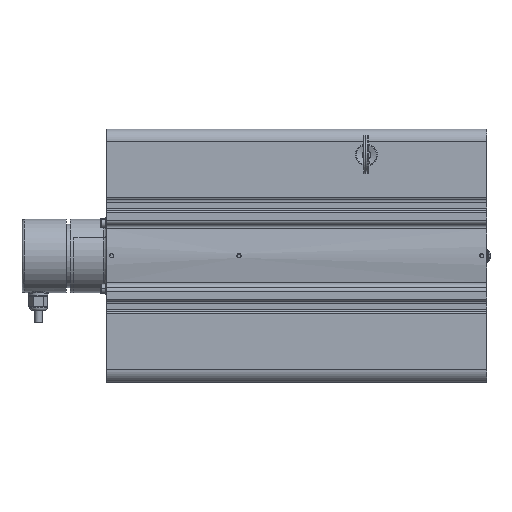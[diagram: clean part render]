
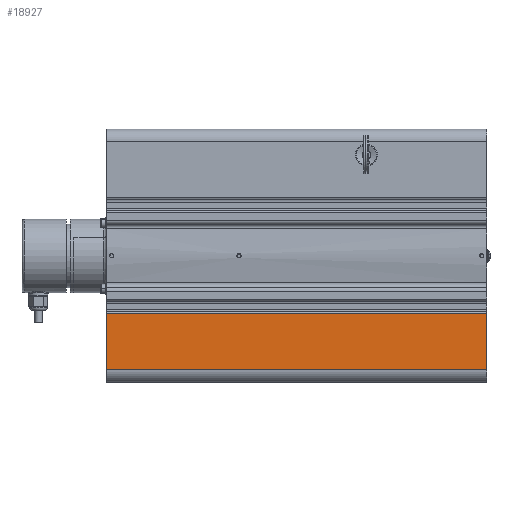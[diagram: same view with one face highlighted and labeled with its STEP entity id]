
A CAD part, top view. The second image highlights one B-rep face of the part: STEP entity #18927.
In plain terms, the highlighted planar face has unit normal (0, 0, 1).
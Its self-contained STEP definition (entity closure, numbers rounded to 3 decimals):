
#417=DIRECTION('',(0.,1.,0.));
#418=VECTOR('',#417,44.275);
#419=CARTESIAN_POINT('',(0.,-89.95,100.));
#420=LINE('',#419,#418);
#5094=DIRECTION('',(1.,0.,0.));
#5095=VECTOR('',#5094,300.);
#5096=CARTESIAN_POINT('',(-300.,-89.95,100.));
#5097=LINE('',#5096,#5095);
#5102=DIRECTION('',(0.,1.,0.));
#5103=VECTOR('',#5102,44.275);
#5104=CARTESIAN_POINT('',(-300.,-89.95,100.));
#5105=LINE('',#5104,#5103);
#5106=DIRECTION('',(-1.,0.,0.));
#5107=VECTOR('',#5106,300.);
#5108=CARTESIAN_POINT('',(0.,-45.675,100.));
#5109=LINE('',#5108,#5107);
#12148=CARTESIAN_POINT('',(0.,-89.95,100.));
#12149=VERTEX_POINT('',#12148);
#12150=CARTESIAN_POINT('',(0.,-45.675,100.));
#12151=VERTEX_POINT('',#12150);
#12818=CARTESIAN_POINT('',(-300.,-45.675,100.));
#12819=VERTEX_POINT('',#12818);
#12820=CARTESIAN_POINT('',(-300.,-89.95,100.));
#12821=VERTEX_POINT('',#12820);
#18915=CARTESIAN_POINT('',(0.,100.05,100.));
#18916=DIRECTION('',(0.,0.,1.));
#18917=DIRECTION('',(0.,-1.,0.));
#18918=AXIS2_PLACEMENT_3D('',#18915,#18916,#18917);
#18919=PLANE('',#18918);
#18921=ORIENTED_EDGE('',*,*,#18920,.F.);
#18922=ORIENTED_EDGE('',*,*,#13177,.F.);
#18923=ORIENTED_EDGE('',*,*,#18908,.F.);
#18924=ORIENTED_EDGE('',*,*,#13827,.T.);
#18925=EDGE_LOOP('',(#18921,#18922,#18923,#18924));
#18926=FACE_OUTER_BOUND('',#18925,.F.);
#18927=ADVANCED_FACE('',(#18926),#18919,.T.);
#13177=EDGE_CURVE('',#12149,#12151,#420,.T.);
#13827=EDGE_CURVE('',#12821,#12819,#5105,.T.);
#18908=EDGE_CURVE('',#12821,#12149,#5097,.T.);
#18920=EDGE_CURVE('',#12151,#12819,#5109,.T.);
